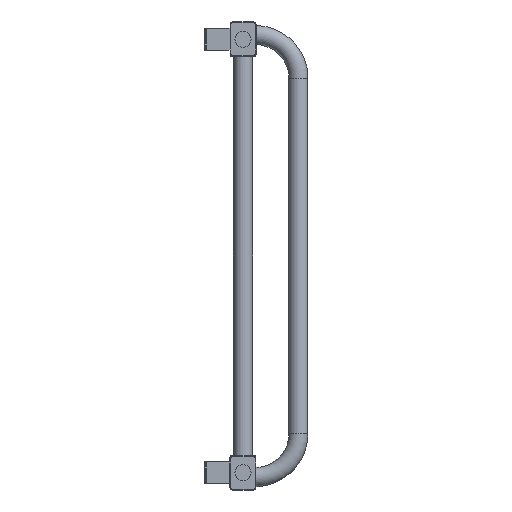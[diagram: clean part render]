
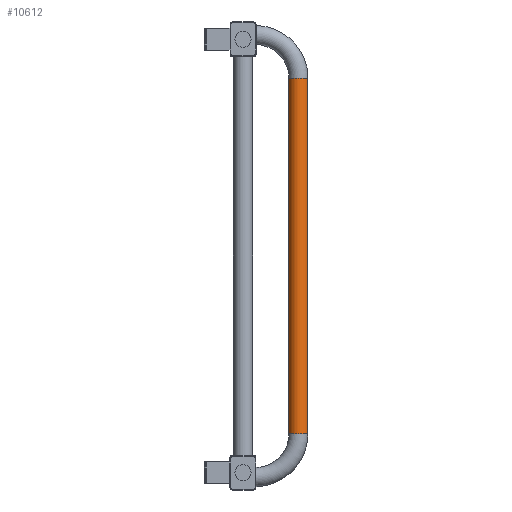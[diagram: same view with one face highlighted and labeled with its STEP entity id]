
A CAD part, left-side view. The second image highlights one B-rep face of the part: STEP entity #10612.
In plain terms, the highlighted cylindrical face has radius 11 mm (diameter 22 mm), a full revolution.
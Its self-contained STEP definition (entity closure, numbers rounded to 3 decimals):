
#10581=CARTESIAN_POINT('',(30.,-75.,64.99));
#10582=VERTEX_POINT('',#10581);
#10583=CARTESIAN_POINT('',(30.,-64.,64.99));
#10584=DIRECTION('',(0.0,0.0,1.0));
#10585=DIRECTION('',(0.0,1.0,0.0));
#10586=AXIS2_PLACEMENT_3D('',#10583,#10584,#10585);
#10587=CIRCLE('',#10586,11.0);
#10588=EDGE_CURVE('',#10582,#10582,#10587,.T.);
#10593=CARTESIAN_POINT('',(30.,-64.,475.01));
#10594=DIRECTION('',(0.,0.,-1.0));
#10595=DIRECTION('',(0.0,1.0,0.0));
#10596=AXIS2_PLACEMENT_3D('',#10593,#10594,#10595);
#10597=CYLINDRICAL_SURFACE('',#10596,11.0);
#10598=ORIENTED_EDGE('',*,*,#10588,.T.);
#10599=EDGE_LOOP('',(#10598));
#10600=FACE_OUTER_BOUND('',#10599,.T.);
#10601=CARTESIAN_POINT('',(30.,-75.,475.01));
#10602=VERTEX_POINT('',#10601);
#10603=CARTESIAN_POINT('',(30.,-64.,475.01));
#10604=DIRECTION('',(0.0,0.0,1.0));
#10605=DIRECTION('',(0.0,1.0,0.0));
#10606=AXIS2_PLACEMENT_3D('',#10603,#10604,#10605);
#10607=CIRCLE('',#10606,11.0);
#10608=EDGE_CURVE('',#10602,#10602,#10607,.T.);
#10609=ORIENTED_EDGE('',*,*,#10608,.F.);
#10610=EDGE_LOOP('',(#10609));
#10611=FACE_BOUND('',#10610,.T.);
#10612=ADVANCED_FACE('',(#10600,#10611),#10597,.T.);
